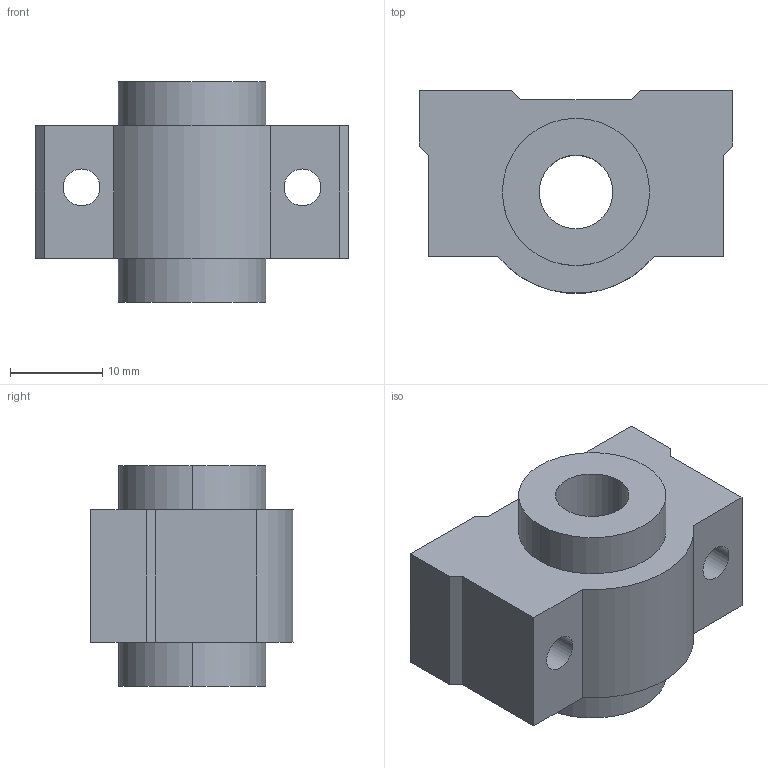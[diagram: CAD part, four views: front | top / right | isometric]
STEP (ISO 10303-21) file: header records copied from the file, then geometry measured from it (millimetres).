
FILE_DESCRIPTION((''),'2;1');
FILE_NAME('C:\Documents and Settings\ｿﾀﾀ蠑ｷ1\ｹﾙﾅﾁ ﾈｭｸ饅\ｺﾎﾇｰﾆﾄﾀﾏ\ﾁｦﾇｰ\SCE__VUU\SCE8VUU.stp','2005-06-22T15:12:32',('ｿﾀﾀ蠑ｷ1'),(''),'Autodesk Inventor 9','Autodesk Inventor 9','');
FILE_SCHEMA(('AUTOMOTIVE_DESIGN { 1 0 10303 214 1 1 1 1 }'));
Length unit declared in the file: millimetre
Products named in the file (1): SCE__VUU
Bounding box: 34 x 21.96 x 24 mm (x, y, z)
Volume: 9245.7 mm3; surface area: 4161.1 mm2
Topology: 1 solids, 1 shells, 28 faces, 72 edges, 48 vertices
Faces by surface type: plane 17, cylinder 7, bspline 4
Entity records: 945 total; most frequent: CARTESIAN_POINT 217, DIRECTION 144, ORIENTED_EDGE 144, EDGE_CURVE 72, VECTOR 50, LINE 50, VERTEX_POINT 48, AXIS2_PLACEMENT_3D 47
